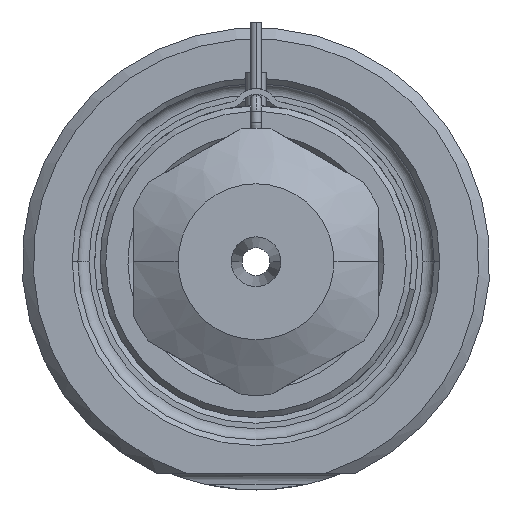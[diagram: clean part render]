
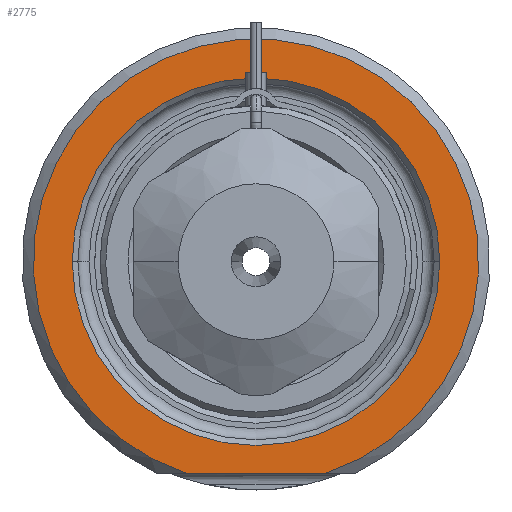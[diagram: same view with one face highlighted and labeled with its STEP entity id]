
A CAD part, front view. The second image highlights one B-rep face of the part: STEP entity #2775.
In plain terms, the highlighted planar face has unit normal (0, -1, 0).
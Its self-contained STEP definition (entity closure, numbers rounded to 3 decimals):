
#1=DIRECTION('',(1.,0.,0.));
#2=VECTOR('',#1,12.49);
#3=CARTESIAN_POINT('',(-6.245,0.,-19.));
#4=LINE('',#3,#2);
#5=CARTESIAN_POINT('',(0.,0.,0.));
#6=DIRECTION('',(0.,1.,0.));
#7=DIRECTION('',(-1.,0.,0.));
#8=AXIS2_PLACEMENT_3D('',#5,#6,#7);
#10=CARTESIAN_POINT('',(0.,0.,0.));
#11=DIRECTION('',(0.,1.,0.));
#12=DIRECTION('',(1.,0.,0.));
#13=AXIS2_PLACEMENT_3D('',#10,#11,#12);
#119=CARTESIAN_POINT('',(0.,0.,0.));
#120=DIRECTION('',(0.,-1.,0.));
#121=DIRECTION('',(0.312,0.,-0.95));
#122=AXIS2_PLACEMENT_3D('',#119,#120,#121);
#2318=CARTESIAN_POINT('',(-16.5,0.,0.));
#2319=CARTESIAN_POINT('',(16.5,0.,0.));
#2320=VERTEX_POINT('',#2318);
#2321=VERTEX_POINT('',#2319);
#2358=CARTESIAN_POINT('',(-6.245,0.,-19.));
#2359=CARTESIAN_POINT('',(6.245,0.,-19.));
#2360=VERTEX_POINT('',#2358);
#2361=VERTEX_POINT('',#2359);
#2758=CARTESIAN_POINT('',(0.,0.,0.));
#2759=DIRECTION('',(0.,-1.,0.));
#2760=DIRECTION('',(1.,0.,0.));
#2761=AXIS2_PLACEMENT_3D('',#2758,#2759,#2760);
#2762=PLANE('',#2761);
#2764=ORIENTED_EDGE('',*,*,#2763,.F.);
#2766=ORIENTED_EDGE('',*,*,#2765,.F.);
#2767=EDGE_LOOP('',(#2764,#2766));
#2768=FACE_OUTER_BOUND('',#2767,.F.);
#2770=ORIENTED_EDGE('',*,*,#2769,.F.);
#2772=ORIENTED_EDGE('',*,*,#2771,.F.);
#2773=EDGE_LOOP('',(#2770,#2772));
#2774=FACE_BOUND('',#2773,.F.);
#2775=ADVANCED_FACE('',(#2768,#2774),#2762,.T.);
#9=CIRCLE('',#8,16.5);
#14=CIRCLE('',#13,16.5);
#123=CIRCLE('',#122,20.);
#2763=EDGE_CURVE('',#2360,#2361,#4,.T.);
#2765=EDGE_CURVE('',#2361,#2360,#123,.T.);
#2769=EDGE_CURVE('',#2320,#2321,#9,.T.);
#2771=EDGE_CURVE('',#2321,#2320,#14,.T.);
